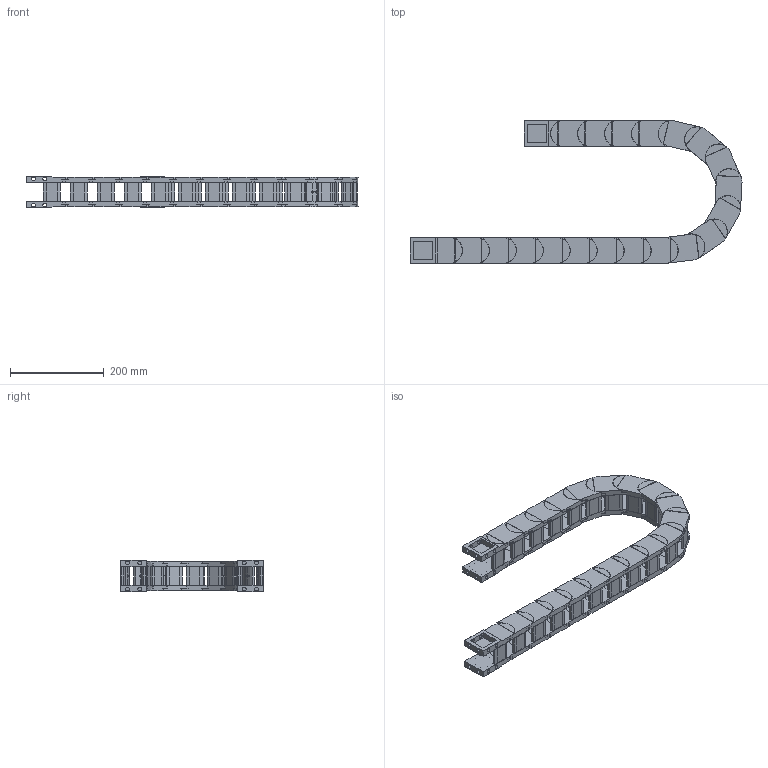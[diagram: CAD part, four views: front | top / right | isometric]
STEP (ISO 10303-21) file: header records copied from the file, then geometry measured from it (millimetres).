
FILE_DESCRIPTION((''),'2;1');
FILE_NAME('HD35-R125-ZPT_ASM','2022-06-17T16:02:16',('admin'),(''),'CREO PARAMETRIC BY PTC INC, 2021164','CREO PARAMETRIC BY PTC INC, 2021164','');
FILE_SCHEMA(('CONFIG_CONTROL_DESIGN','GEOMETRIC_VALIDATION_PROPERTIES_MIM'));
Length unit declared in the file: millimetre
Products named in the file (6): HD35; 35-600001; HD35_ASM; 35-TL_11; 35-WL; HD35-R125-ZPT_ASM
Assembly tree (25 placements, depth 3):
  HD35-R125-ZPT_ASM
    HD35_ASM  x19
      HD35
      35-600001
    35-TL_11
    35-WL
    35-600001  x2
Bounding box: 707.96 x 304.27 x 68 mm (x, y, z)
Volume: 2162105.6 mm3; surface area: 834262.1 mm2
Topology: 84 solids, 84 shells, 1570 faces, 4178 edges, 2864 vertices
Faces by surface type: plane 1068, cylinder 502
Entity records: 9419 total; most frequent: DIRECTION 1424, CARTESIAN_POINT 1414, ORIENTED_EDGE 1300, EDGE_CURVE 650, AXIS2_PLACEMENT_3D 507, VERTEX_POINT 440, VECTOR 410, LINE 410
